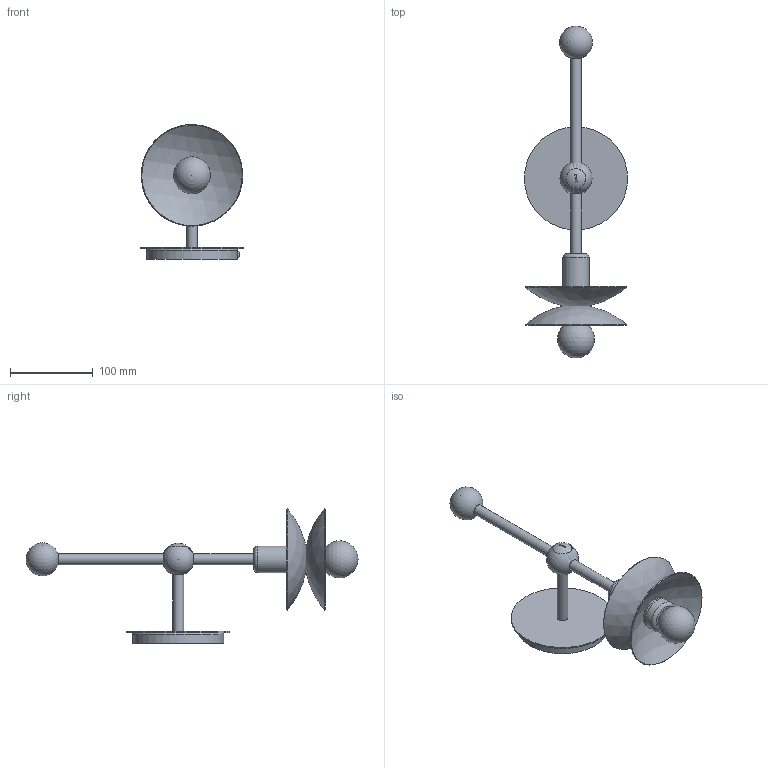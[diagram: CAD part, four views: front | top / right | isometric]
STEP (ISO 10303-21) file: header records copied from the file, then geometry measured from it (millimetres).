
FILE_DESCRIPTION(/* description */ (''),/* implementation_level */ '2;1');
FILE_NAME(/* name */ '260210_B_B765 Babylon Single.stp',/* time_stamp */ '2026-02-10T12:49:00+01:00',/* author */ ('Dominik'),/* organization */ (''),/* preprocessor_version */ 'ST-DEVELOPER v20.1',/* originating_system */ 'Autodesk Inventor 2026',/* authorisation */ '');
FILE_SCHEMA (('AUTOMOTIVE_DESIGN { 1 0 10303 214 3 1 1 }'));
Length unit declared in the file: millimetre
Products named in the file (1): B765 jako część
Bounding box: 125 x 402.02 x 163.26 mm (x, y, z)
Volume: 414350.3 mm3; surface area: 149033.2 mm2
Topology: 15 solids, 15 shells, 98 faces, 169 edges, 110 vertices
Faces by surface type: plane 40, cylinder 29, torus 10, cone 8, sphere 8, bspline 3
Full cylindrical faces by diameter (mm): 4 x1, 7.6 x1, 11.6 x2, 12 x2, 13 x5, 13.5 x3, 17 x1, 20.6 x1, 22 x1, 23.1 x1, 23.5 x1, 28 x1, 29 x2, 32 x1, 39.5 x2, 110 x1, 125 x1
Entity records: 2766 total; most frequent: CARTESIAN_POINT 578, DIRECTION 467, ORIENTED_EDGE 328, AXIS2_PLACEMENT_3D 213, EDGE_CURVE 164, CIRCLE 117, EDGE_LOOP 116, STYLED_ITEM 113
